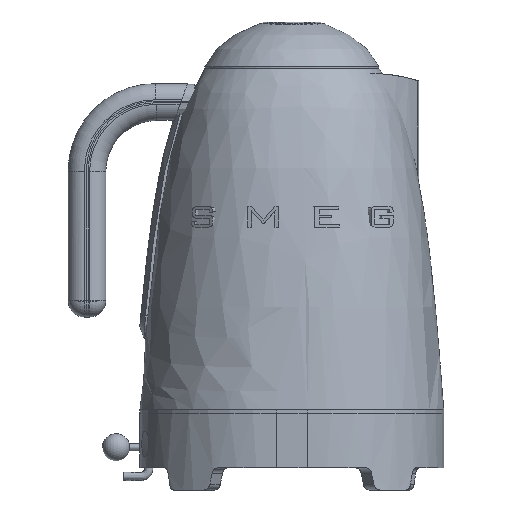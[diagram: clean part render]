
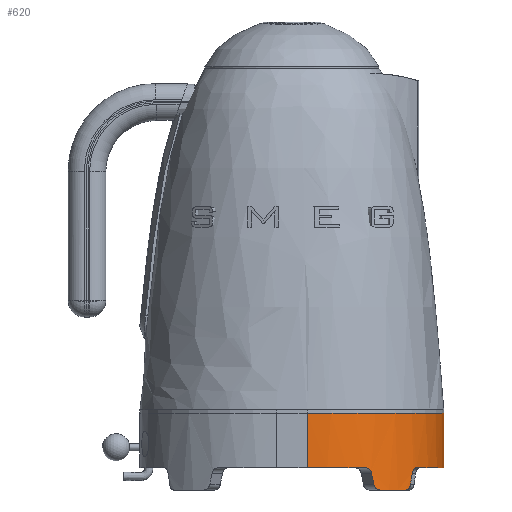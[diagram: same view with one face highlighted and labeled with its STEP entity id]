
A CAD part, front view. The second image highlights one B-rep face of the part: STEP entity #620.
In plain terms, the highlighted cylindrical face has radius 80 mm (diameter 160 mm), a partial arc.
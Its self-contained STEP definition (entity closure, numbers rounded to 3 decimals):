
#74=ELLIPSE('',#5630,355.778,80.);
#75=ELLIPSE('',#5632,355.778,80.);
#393=CYLINDRICAL_SURFACE('',#5633,80.);
#491=CIRCLE('',#5596,80.);
#493=CIRCLE('',#5598,80.);
#509=CIRCLE('',#5629,80.);
#510=CIRCLE('',#5631,80.);
#620=ADVANCED_FACE('',(#1128),#393,.T.);
#1128=FACE_OUTER_BOUND('',#1450,.T.);
#1450=EDGE_LOOP('',(#2330,#2331,#2332,#2333,#2334,#2335,#2336,#2337,#2338,
#2339,#2340,#2341));
#1791=B_SPLINE_CURVE_WITH_KNOTS('',3,(#8768,#8769,#8770,#8771,#8772,#8773,
#8774,#8775,#8776,#8777,#8778,#8779,#8780),.UNSPECIFIED.,.F.,.F.,(4,3,3,
3,4),(0.,0.251,0.502,0.753,1.),
 .UNSPECIFIED.);
#1792=B_SPLINE_CURVE_WITH_KNOTS('',3,(#8784,#8785,#8786,#8787,#8788,#8789,
#8790,#8791,#8792,#8793,#8794,#8795,#8796),.UNSPECIFIED.,.F.,.F.,(4,3,3,
3,4),(0.,0.251,0.502,0.753,1.),
 .UNSPECIFIED.);
#1793=B_SPLINE_CURVE_WITH_KNOTS('',3,(#8800,#8801,#8802,#8803,#8804,#8805,
#8806,#8807,#8808,#8809,#8810,#8811,#8812),.UNSPECIFIED.,.F.,.F.,(4,3,3,
3,4),(0.,0.251,0.503,0.754,1.),
 .UNSPECIFIED.);
#1794=B_SPLINE_CURVE_WITH_KNOTS('',3,(#8816,#8817,#8818,#8819,#8820,#8821,
#8822,#8823,#8824,#8825,#8826,#8827,#8828),.UNSPECIFIED.,.F.,.F.,(4,3,3,
3,4),(0.,0.251,0.502,0.753,1.),
 .UNSPECIFIED.);
#2330=ORIENTED_EDGE('',*,*,#4298,.F.);
#2331=ORIENTED_EDGE('',*,*,#4299,.T.);
#2332=ORIENTED_EDGE('',*,*,#4300,.T.);
#2333=ORIENTED_EDGE('',*,*,#4301,.T.);
#2334=ORIENTED_EDGE('',*,*,#4229,.F.);
#2335=ORIENTED_EDGE('',*,*,#4297,.T.);
#2336=ORIENTED_EDGE('',*,*,#4302,.T.);
#2337=ORIENTED_EDGE('',*,*,#4303,.F.);
#2338=ORIENTED_EDGE('',*,*,#4233,.F.);
#2339=ORIENTED_EDGE('',*,*,#4304,.T.);
#2340=ORIENTED_EDGE('',*,*,#4305,.T.);
#2341=ORIENTED_EDGE('',*,*,#4306,.T.);
#3693=VERTEX_POINT('',#7824);
#3694=VERTEX_POINT('',#7826);
#3697=VERTEX_POINT('',#7832);
#3698=VERTEX_POINT('',#7834);
#3750=VERTEX_POINT('',#8762);
#3751=VERTEX_POINT('',#8766);
#3752=VERTEX_POINT('',#8767);
#3753=VERTEX_POINT('',#8781);
#3754=VERTEX_POINT('',#8783);
#3755=VERTEX_POINT('',#8798);
#3756=VERTEX_POINT('',#8813);
#3757=VERTEX_POINT('',#8815);
#4229=EDGE_CURVE('',#3693,#3694,#491,.T.);
#4233=EDGE_CURVE('',#3697,#3698,#493,.T.);
#4297=EDGE_CURVE('',#3693,#3750,#4986,.T.);
#4298=EDGE_CURVE('',#3751,#3752,#509,.T.);
#4299=EDGE_CURVE('',#3751,#3753,#1791,.T.);
#4300=EDGE_CURVE('',#3753,#3754,#74,.T.);
#4301=EDGE_CURVE('',#3754,#3694,#1792,.T.);
#4302=EDGE_CURVE('',#3750,#3755,#510,.T.);
#4303=EDGE_CURVE('',#3698,#3755,#4987,.T.);
#4304=EDGE_CURVE('',#3697,#3756,#1793,.T.);
#4305=EDGE_CURVE('',#3756,#3757,#75,.T.);
#4306=EDGE_CURVE('',#3757,#3752,#1794,.T.);
#4986=LINE('',#8763,#5286);
#4987=LINE('',#8799,#5287);
#5286=VECTOR('',#6197,1.);
#5287=VECTOR('',#6206,1.);
#5596=AXIS2_PLACEMENT_3D('',#7825,#6113,#6114);
#5598=AXIS2_PLACEMENT_3D('',#7833,#6119,#6120);
#5629=AXIS2_PLACEMENT_3D('',#8765,#6200,#6201);
#5630=AXIS2_PLACEMENT_3D('',#8782,#6202,#6203);
#5631=AXIS2_PLACEMENT_3D('',#8797,#6204,#6205);
#5632=AXIS2_PLACEMENT_3D('',#8814,#6207,#6208);
#5633=AXIS2_PLACEMENT_3D('',#8829,#6209,#6210);
#6113=DIRECTION('',(0.,0.,-1.));
#6114=DIRECTION('',(1.,0.,0.));
#6119=DIRECTION('',(0.,0.,-1.));
#6120=DIRECTION('',(1.,0.,0.));
#6197=DIRECTION('',(0.,0.,1.));
#6200=DIRECTION('',(0.,0.,-1.));
#6201=DIRECTION('',(-1.,0.,0.));
#6202=DIRECTION('',(-0.626,-0.746,0.225));
#6203=DIRECTION('',(0.145,0.172,0.974));
#6204=DIRECTION('',(0.,0.,-1.));
#6205=DIRECTION('',(1.,0.,0.));
#6206=DIRECTION('',(0.,0.,1.));
#6207=DIRECTION('',(0.844,0.487,0.225));
#6208=DIRECTION('',(-0.195,-0.112,0.974));
#6209=DIRECTION('',(0.,0.,1.));
#6210=DIRECTION('',(1.,0.,0.));
#7824=CARTESIAN_POINT('',(278.71,-71.815,-14.));
#7825=CARTESIAN_POINT('',(198.71,-71.815,-14.));
#7826=CARTESIAN_POINT('',(262.664,-119.877,-14.));
#7832=CARTESIAN_POINT('',(232.97,-144.108,-14.));
#7833=CARTESIAN_POINT('',(198.71,-71.815,-14.));
#7834=CARTESIAN_POINT('',(198.71,-151.815,-14.));
#8762=CARTESIAN_POINT('',(278.71,-71.815,18.));
#8763=CARTESIAN_POINT('',(278.71,-71.815,-14.));
#8765=CARTESIAN_POINT('',(198.71,-71.815,-27.));
#8766=CARTESIAN_POINT('',(256.609,-127.021,-27.));
#8767=CARTESIAN_POINT('',(241.185,-139.608,-27.));
#8768=CARTESIAN_POINT('',(256.609,-127.021,-27.));
#8769=CARTESIAN_POINT('',(256.919,-126.697,-27.));
#8770=CARTESIAN_POINT('',(257.229,-126.365,-26.923));
#8771=CARTESIAN_POINT('',(257.516,-126.054,-26.775));
#8772=CARTESIAN_POINT('',(257.803,-125.743,-26.627));
#8773=CARTESIAN_POINT('',(258.073,-125.445,-26.404));
#8774=CARTESIAN_POINT('',(258.307,-125.184,-26.124));
#8775=CARTESIAN_POINT('',(258.54,-124.923,-25.844));
#8776=CARTESIAN_POINT('',(258.743,-124.694,-25.501));
#8777=CARTESIAN_POINT('',(258.899,-124.515,-25.121));
#8778=CARTESIAN_POINT('',(259.053,-124.339,-24.748));
#8779=CARTESIAN_POINT('',(259.167,-124.208,-24.329));
#8780=CARTESIAN_POINT('',(259.231,-124.133,-23.899));
#8781=CARTESIAN_POINT('',(259.231,-124.133,-23.899));
#8782=CARTESIAN_POINT('',(198.71,-71.815,-18.807));
#8783=CARTESIAN_POINT('',(260.246,-122.936,-17.101));
#8784=CARTESIAN_POINT('',(260.246,-122.936,-17.101));
#8785=CARTESIAN_POINT('',(260.31,-122.859,-16.664));
#8786=CARTESIAN_POINT('',(260.423,-122.722,-16.24));
#8787=CARTESIAN_POINT('',(260.575,-122.537,-15.861));
#8788=CARTESIAN_POINT('',(260.727,-122.352,-15.483));
#8789=CARTESIAN_POINT('',(260.921,-122.113,-15.141));
#8790=CARTESIAN_POINT('',(261.141,-121.839,-14.863));
#8791=CARTESIAN_POINT('',(261.36,-121.565,-14.586));
#8792=CARTESIAN_POINT('',(261.611,-121.249,-14.365));
#8793=CARTESIAN_POINT('',(261.87,-120.915,-14.219));
#8794=CARTESIAN_POINT('',(262.126,-120.585,-14.075));
#8795=CARTESIAN_POINT('',(262.398,-120.23,-14.));
#8796=CARTESIAN_POINT('',(262.664,-119.877,-14.));
#8797=CARTESIAN_POINT('',(198.71,-71.815,18.));
#8798=CARTESIAN_POINT('',(198.71,-151.815,18.));
#8799=CARTESIAN_POINT('',(198.71,-151.815,-14.));
#8800=CARTESIAN_POINT('',(232.97,-144.108,-14.));
#8801=CARTESIAN_POINT('',(233.375,-143.916,-14.));
#8802=CARTESIAN_POINT('',(233.785,-143.718,-14.077));
#8803=CARTESIAN_POINT('',(234.165,-143.53,-14.225));
#8804=CARTESIAN_POINT('',(234.544,-143.342,-14.374));
#8805=CARTESIAN_POINT('',(234.905,-143.16,-14.597));
#8806=CARTESIAN_POINT('',(235.217,-143.,-14.878));
#8807=CARTESIAN_POINT('',(235.528,-142.84,-15.157));
#8808=CARTESIAN_POINT('',(235.8,-142.698,-15.501));
#8809=CARTESIAN_POINT('',(236.01,-142.588,-15.881));
#8810=CARTESIAN_POINT('',(236.216,-142.479,-16.254));
#8811=CARTESIAN_POINT('',(236.369,-142.397,-16.672));
#8812=CARTESIAN_POINT('',(236.456,-142.351,-17.101));
#8813=CARTESIAN_POINT('',(236.456,-142.351,-17.101));
#8814=CARTESIAN_POINT('',(198.71,-71.815,-28.275));
#8815=CARTESIAN_POINT('',(237.832,-141.597,-23.899));
#8816=CARTESIAN_POINT('',(237.832,-141.597,-23.899));
#8817=CARTESIAN_POINT('',(237.92,-141.548,-24.336));
#8818=CARTESIAN_POINT('',(238.075,-141.461,-24.761));
#8819=CARTESIAN_POINT('',(238.283,-141.342,-25.139));
#8820=CARTESIAN_POINT('',(238.491,-141.224,-25.517));
#8821=CARTESIAN_POINT('',(238.758,-141.071,-25.859));
#8822=CARTESIAN_POINT('',(239.061,-140.893,-26.137));
#8823=CARTESIAN_POINT('',(239.364,-140.716,-26.415));
#8824=CARTESIAN_POINT('',(239.712,-140.511,-26.636));
#8825=CARTESIAN_POINT('',(240.074,-140.292,-26.782));
#8826=CARTESIAN_POINT('',(240.431,-140.076,-26.925));
#8827=CARTESIAN_POINT('',(240.811,-139.842,-27.));
#8828=CARTESIAN_POINT('',(241.185,-139.608,-27.));
#8829=CARTESIAN_POINT('',(198.71,-71.815,-14.));
